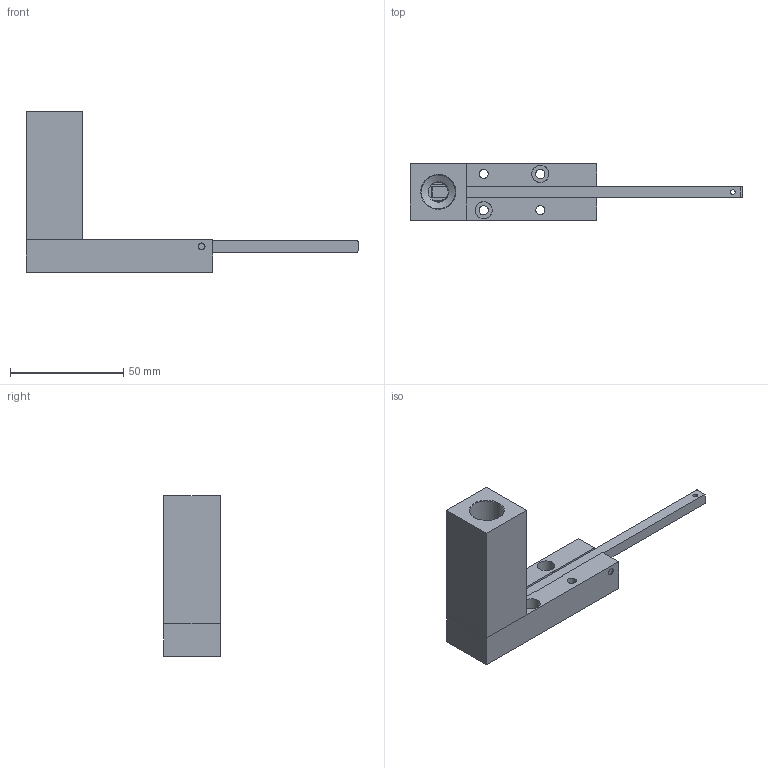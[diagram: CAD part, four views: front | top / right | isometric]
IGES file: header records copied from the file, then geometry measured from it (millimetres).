
Global section: file name: 400.00; native system: Autodesk Inventor 2019; preprocessor: unknown; author: AP; date: 20191024.085816; units: millimetre
Bounding box: 146.5 x 25 x 71 mm (x, y, z)
Volume: 56142.6 mm3; surface area: 24280 mm2
Topology: 10 solids, 10 shells, 172 faces, 484 edges, 339 vertices
Faces by surface type: bspline 172
